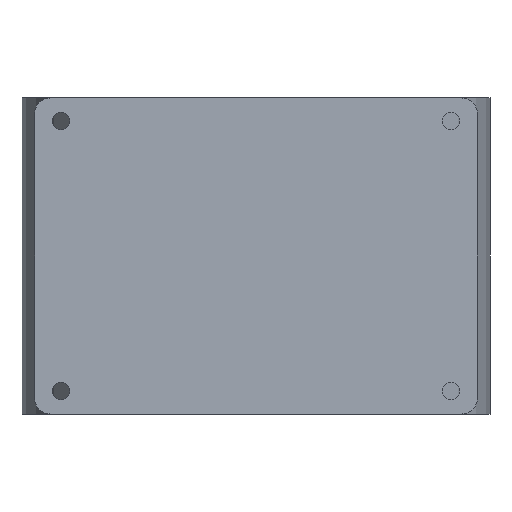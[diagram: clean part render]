
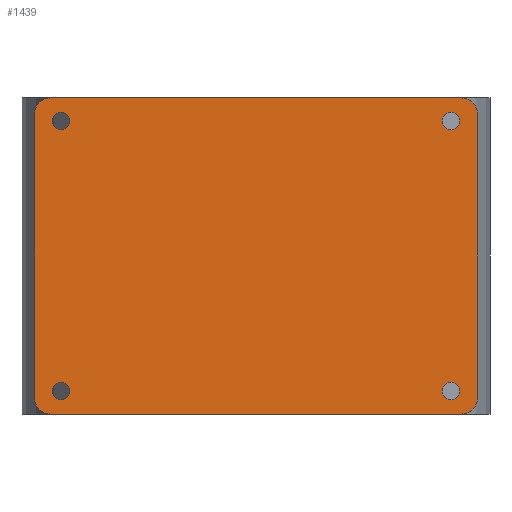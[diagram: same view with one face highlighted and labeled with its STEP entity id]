
A CAD part, left-side view. The second image highlights one B-rep face of the part: STEP entity #1439.
In plain terms, the highlighted planar face has unit normal (-1, 0, 0).
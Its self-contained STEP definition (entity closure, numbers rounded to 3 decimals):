
#20=FACE_BOUND('',#227,.T.);
#21=FACE_BOUND('',#228,.T.);
#22=FACE_BOUND('',#229,.T.);
#23=FACE_BOUND('',#230,.T.);
#36=PLANE('',#1598);
#134=FACE_OUTER_BOUND('',#226,.T.);
#226=EDGE_LOOP('',(#1043,#1044,#1045,#1046,#1047,#1048,#1049,#1050));
#227=EDGE_LOOP('',(#1051));
#228=EDGE_LOOP('',(#1052));
#229=EDGE_LOOP('',(#1053));
#230=EDGE_LOOP('',(#1054));
#322=LINE('',#2422,#404);
#334=LINE('',#2478,#416);
#335=LINE('',#2482,#417);
#336=LINE('',#2486,#418);
#404=VECTOR('',#1822,10.);
#416=VECTOR('',#1868,10.);
#417=VECTOR('',#1871,10.);
#418=VECTOR('',#1874,10.);
#474=CIRCLE('',#1533,2.75);
#476=CIRCLE('',#1536,2.75);
#478=CIRCLE('',#1539,2.75);
#480=CIRCLE('',#1542,2.75);
#508=CIRCLE('',#1579,5.);
#526=CIRCLE('',#1599,5.);
#527=CIRCLE('',#1600,5.);
#528=CIRCLE('',#1601,5.);
#578=VERTEX_POINT('',#2146);
#580=VERTEX_POINT('',#2152);
#582=VERTEX_POINT('',#2158);
#584=VERTEX_POINT('',#2164);
#614=VERTEX_POINT('',#2412);
#615=VERTEX_POINT('',#2413);
#618=VERTEX_POINT('',#2421);
#645=VERTEX_POINT('',#2477);
#646=VERTEX_POINT('',#2479);
#647=VERTEX_POINT('',#2481);
#648=VERTEX_POINT('',#2483);
#649=VERTEX_POINT('',#2485);
#716=EDGE_CURVE('',#578,#578,#474,.T.);
#719=EDGE_CURVE('',#580,#580,#476,.T.);
#722=EDGE_CURVE('',#582,#582,#478,.T.);
#725=EDGE_CURVE('',#584,#584,#480,.T.);
#766=EDGE_CURVE('',#614,#615,#508,.T.);
#770=EDGE_CURVE('',#615,#618,#322,.T.);
#798=EDGE_CURVE('',#614,#645,#334,.T.);
#799=EDGE_CURVE('',#646,#645,#526,.T.);
#800=EDGE_CURVE('',#647,#646,#335,.T.);
#801=EDGE_CURVE('',#648,#647,#527,.T.);
#802=EDGE_CURVE('',#649,#648,#336,.T.);
#803=EDGE_CURVE('',#618,#649,#528,.T.);
#1043=ORIENTED_EDGE('',*,*,#766,.F.);
#1044=ORIENTED_EDGE('',*,*,#798,.T.);
#1045=ORIENTED_EDGE('',*,*,#799,.F.);
#1046=ORIENTED_EDGE('',*,*,#800,.F.);
#1047=ORIENTED_EDGE('',*,*,#801,.F.);
#1048=ORIENTED_EDGE('',*,*,#802,.F.);
#1049=ORIENTED_EDGE('',*,*,#803,.F.);
#1050=ORIENTED_EDGE('',*,*,#770,.F.);
#1051=ORIENTED_EDGE('',*,*,#716,.T.);
#1052=ORIENTED_EDGE('',*,*,#719,.T.);
#1053=ORIENTED_EDGE('',*,*,#722,.T.);
#1054=ORIENTED_EDGE('',*,*,#725,.T.);
#1439=ADVANCED_FACE('',(#134,#20,#21,#22,#23),#36,.T.);
#1533=AXIS2_PLACEMENT_3D('',#2147,#1712,#1713);
#1536=AXIS2_PLACEMENT_3D('',#2153,#1719,#1720);
#1539=AXIS2_PLACEMENT_3D('',#2159,#1726,#1727);
#1542=AXIS2_PLACEMENT_3D('',#2165,#1733,#1734);
#1579=AXIS2_PLACEMENT_3D('',#2414,#1814,#1815);
#1598=AXIS2_PLACEMENT_3D('',#2476,#1866,#1867);
#1599=AXIS2_PLACEMENT_3D('',#2480,#1869,#1870);
#1600=AXIS2_PLACEMENT_3D('',#2484,#1872,#1873);
#1601=AXIS2_PLACEMENT_3D('',#2487,#1875,#1876);
#1712=DIRECTION('center_axis',(1.,0.,0.));
#1713=DIRECTION('ref_axis',(0.,0.,1.));
#1719=DIRECTION('center_axis',(1.,0.,0.));
#1720=DIRECTION('ref_axis',(0.,0.,1.));
#1726=DIRECTION('center_axis',(1.,0.,0.));
#1727=DIRECTION('ref_axis',(0.,0.,1.));
#1733=DIRECTION('center_axis',(1.,0.,0.));
#1734=DIRECTION('ref_axis',(0.,0.,1.));
#1814=DIRECTION('center_axis',(1.,0.,0.));
#1815=DIRECTION('ref_axis',(0.,0.707,0.707));
#1822=DIRECTION('',(0.,-1.,0.));
#1866=DIRECTION('center_axis',(-1.,0.,0.));
#1867=DIRECTION('ref_axis',(0.,1.,0.));
#1868=DIRECTION('',(0.,0.,-1.));
#1869=DIRECTION('center_axis',(1.,0.,0.));
#1870=DIRECTION('ref_axis',(0.,0.707,-0.707));
#1871=DIRECTION('',(0.,1.,0.));
#1872=DIRECTION('center_axis',(1.,0.,0.));
#1873=DIRECTION('ref_axis',(0.,-0.707,-0.707));
#1874=DIRECTION('',(0.,0.,-1.));
#1875=DIRECTION('center_axis',(1.,0.,0.));
#1876=DIRECTION('ref_axis',(0.,-0.707,0.707));
#2146=CARTESIAN_POINT('',(-74.,61.664,39.941));
#2147=CARTESIAN_POINT('Origin',(-74.,61.664,42.691));
#2152=CARTESIAN_POINT('',(-74.,-61.664,39.941));
#2153=CARTESIAN_POINT('Origin',(-74.,-61.664,42.691));
#2158=CARTESIAN_POINT('',(-74.,-61.664,-45.441));
#2159=CARTESIAN_POINT('Origin',(-74.,-61.664,-42.691));
#2164=CARTESIAN_POINT('',(-74.,61.664,-45.441));
#2165=CARTESIAN_POINT('Origin',(-74.,61.664,-42.691));
#2412=CARTESIAN_POINT('',(-74.,70.,45.));
#2413=CARTESIAN_POINT('',(-74.,65.,50.));
#2414=CARTESIAN_POINT('Origin',(-74.,65.,45.));
#2421=CARTESIAN_POINT('',(-74.,-65.,50.));
#2422=CARTESIAN_POINT('',(-74.,0.,50.));
#2476=CARTESIAN_POINT('Origin',(-74.,0.,50.));
#2477=CARTESIAN_POINT('',(-74.,70.,-45.));
#2478=CARTESIAN_POINT('',(-74.,70.,50.));
#2479=CARTESIAN_POINT('',(-74.,65.,-50.));
#2480=CARTESIAN_POINT('Origin',(-74.,65.,-45.));
#2481=CARTESIAN_POINT('',(-74.,-65.,-50.));
#2482=CARTESIAN_POINT('',(-74.,0.,-50.));
#2483=CARTESIAN_POINT('',(-74.,-70.,-45.));
#2484=CARTESIAN_POINT('Origin',(-74.,-65.,-45.));
#2485=CARTESIAN_POINT('',(-74.,-70.,45.));
#2486=CARTESIAN_POINT('',(-74.,-70.,50.));
#2487=CARTESIAN_POINT('Origin',(-74.,-65.,45.));
